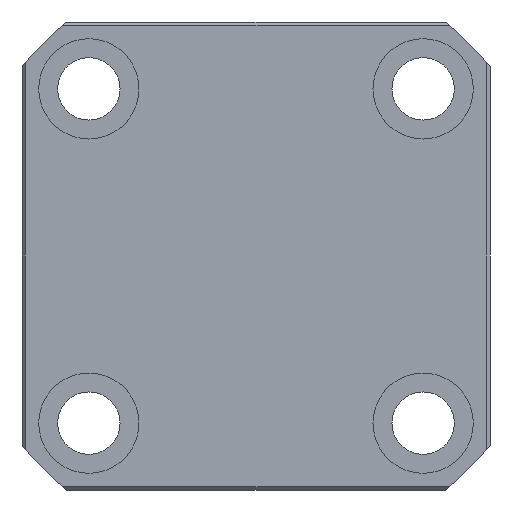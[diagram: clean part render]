
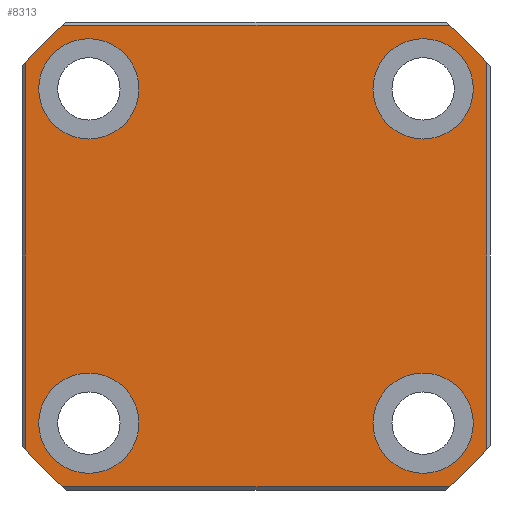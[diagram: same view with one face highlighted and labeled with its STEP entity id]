
A CAD part, front view. The second image highlights one B-rep face of the part: STEP entity #8313.
In plain terms, the highlighted planar face has unit normal (0, -1, 0) as drawn and (0, 0, -1) by its records, which use the part's own axes.
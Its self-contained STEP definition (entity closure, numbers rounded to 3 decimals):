
#75 = CIRCLE ( 'NONE', #1422, 4.5 ) ;
#111 = AXIS2_PLACEMENT_3D ( 'NONE', #5316, #13430, #6490 ) ;
#147 = VECTOR ( 'NONE', #12604, 1000. ) ;
#159 = CARTESIAN_POINT ( 'NONE',  ( -15., 15., 0. ) ) ;
#448 = CARTESIAN_POINT ( 'NONE',  ( 0., 0., 0. ) ) ;
#476 = DIRECTION ( 'NONE',  ( 0., 0., -1. ) ) ;
#484 = ORIENTED_EDGE ( 'NONE', *, *, #1663, .F. ) ;
#670 = VERTEX_POINT ( 'NONE', #2074 ) ;
#795 = CIRCLE ( 'NONE', #13909, 4.5 ) ;
#820 = CIRCLE ( 'NONE', #3505, 4.5 ) ;
#881 = CARTESIAN_POINT ( 'NONE',  ( 15., 15., 0. ) ) ;
#1085 = DIRECTION ( 'NONE',  ( 1., 0., 0. ) ) ;
#1331 = DIRECTION ( 'NONE',  ( -1., 0., 0. ) ) ;
#1335 = EDGE_CURVE ( 'NONE', #6759, #10721, #795, .T. ) ;
#1364 = CARTESIAN_POINT ( 'NONE',  ( 20.7, 17.335, 0. ) ) ;
#1422 = AXIS2_PLACEMENT_3D ( 'NONE', #10215, #3264, #11364 ) ;
#1603 = DIRECTION ( 'NONE',  ( 1., 0., 0. ) ) ;
#1663 = EDGE_CURVE ( 'NONE', #10721, #6759, #10222, .T. ) ;
#1681 = CARTESIAN_POINT ( 'NONE',  ( 0., 0., 0. ) ) ;
#1706 = VECTOR ( 'NONE', #8991, 1000. ) ;
#1856 = CIRCLE ( 'NONE', #9856, 27. ) ;
#1887 = CARTESIAN_POINT ( 'NONE',  ( -20.7, -17.335, 0. ) ) ;
#1970 = AXIS2_PLACEMENT_3D ( 'NONE', #9081, #2133, #10252 ) ;
#2028 = DIRECTION ( 'NONE',  ( -1., 0., 0. ) ) ;
#2067 = ORIENTED_EDGE ( 'NONE', *, *, #7084, .F. ) ;
#2074 = CARTESIAN_POINT ( 'NONE',  ( -10.5, 15., 0. ) ) ;
#2109 = CARTESIAN_POINT ( 'NONE',  ( -10.5, -15., 0. ) ) ;
#2119 = EDGE_CURVE ( 'NONE', #6924, #13919, #5671, .T. ) ;
#2133 = DIRECTION ( 'NONE',  ( 0., 0., -1. ) ) ;
#2181 = CARTESIAN_POINT ( 'NONE',  ( 0., -20.7, 0. ) ) ;
#2248 = CIRCLE ( 'NONE', #12287, 4.5 ) ;
#2347 = AXIS2_PLACEMENT_3D ( 'NONE', #1681, #9795, #2842 ) ;
#2358 = LINE ( 'NONE', #8020, #14340 ) ;
#2485 = VERTEX_POINT ( 'NONE', #13855 ) ;
#2762 = FACE_BOUND ( 'NONE', #4190, .T. ) ;
#2842 = DIRECTION ( 'NONE',  ( 1., 0., 0. ) ) ;
#2921 = VERTEX_POINT ( 'NONE', #1887 ) ;
#3264 = DIRECTION ( 'NONE',  ( 0., 0., -1. ) ) ;
#3470 = VERTEX_POINT ( 'NONE', #4208 ) ;
#3505 = AXIS2_PLACEMENT_3D ( 'NONE', #159, #8267, #1331 ) ;
#3519 = EDGE_CURVE ( 'NONE', #3470, #3550, #6172, .T. ) ;
#3550 = VERTEX_POINT ( 'NONE', #11309 ) ;
#3648 = VERTEX_POINT ( 'NONE', #14944 ) ;
#3667 = EDGE_CURVE ( 'NONE', #3648, #13919, #2358, .T. ) ;
#3795 = ORIENTED_EDGE ( 'NONE', *, *, #6285, .F. ) ;
#3937 = AXIS2_PLACEMENT_3D ( 'NONE', #12381, #7738, #14740 ) ;
#4190 = EDGE_LOOP ( 'NONE', ( #12544, #11627 ) ) ;
#4208 = CARTESIAN_POINT ( 'NONE',  ( 19.5, 15., 0. ) ) ;
#4382 = VERTEX_POINT ( 'NONE', #9340 ) ;
#4419 = CARTESIAN_POINT ( 'NONE',  ( -15., 15., 0. ) ) ;
#4538 = ORIENTED_EDGE ( 'NONE', *, *, #11081, .F. ) ;
#4790 = CARTESIAN_POINT ( 'NONE',  ( 17.335, -20.7, 0. ) ) ;
#4803 = AXIS2_PLACEMENT_3D ( 'NONE', #4419, #12528, #5583 ) ;
#4890 = EDGE_LOOP ( 'NONE', ( #12199, #10483, #10539, #11296, #2067, #5570, #4538, #12720 ) ) ;
#4995 = CARTESIAN_POINT ( 'NONE',  ( 0., 0., 0. ) ) ;
#5125 = CIRCLE ( 'NONE', #4803, 4.5 ) ;
#5233 = AXIS2_PLACEMENT_3D ( 'NONE', #448, #8557, #1603 ) ;
#5316 = CARTESIAN_POINT ( 'NONE',  ( -15., -15., 0. ) ) ;
#5479 = CARTESIAN_POINT ( 'NONE',  ( 19.5, -15., 0. ) ) ;
#5559 = DIRECTION ( 'NONE',  ( 0., 0., 1. ) ) ;
#5570 = ORIENTED_EDGE ( 'NONE', *, *, #6514, .T. ) ;
#5583 = DIRECTION ( 'NONE',  ( -1., 0., 0. ) ) ;
#5642 = EDGE_LOOP ( 'NONE', ( #6577, #3795 ) ) ;
#5671 = CIRCLE ( 'NONE', #2347, 27. ) ;
#5688 = DIRECTION ( 'NONE',  ( -1., 0., 0. ) ) ;
#5802 = EDGE_LOOP ( 'NONE', ( #12598, #5873 ) ) ;
#5859 = FACE_BOUND ( 'NONE', #5802, .T. ) ;
#5873 = ORIENTED_EDGE ( 'NONE', *, *, #3519, .F. ) ;
#5965 = CARTESIAN_POINT ( 'NONE',  ( 15., 15., 0. ) ) ;
#6172 = CIRCLE ( 'NONE', #7988, 4.5 ) ;
#6184 = DIRECTION ( 'NONE',  ( 1., 0., 0. ) ) ;
#6226 = FACE_BOUND ( 'NONE', #5642, .T. ) ;
#6285 = EDGE_CURVE ( 'NONE', #670, #12539, #820, .T. ) ;
#6490 = DIRECTION ( 'NONE',  ( -1., 0., 0. ) ) ;
#6505 = VERTEX_POINT ( 'NONE', #5479 ) ;
#6514 = EDGE_CURVE ( 'NONE', #2921, #2485, #10948, .T. ) ;
#6567 = EDGE_LOOP ( 'NONE', ( #484, #11434 ) ) ;
#6577 = ORIENTED_EDGE ( 'NONE', *, *, #7358, .F. ) ;
#6624 = PLANE ( 'NONE',  #3937 ) ;
#6759 = VERTEX_POINT ( 'NONE', #2109 ) ;
#6924 = VERTEX_POINT ( 'NONE', #1364 ) ;
#7081 = AXIS2_PLACEMENT_3D ( 'NONE', #4995, #13131, #6184 ) ;
#7084 = EDGE_CURVE ( 'NONE', #2921, #14426, #13867, .T. ) ;
#7143 = DIRECTION ( 'NONE',  ( -1., 0., 0. ) ) ;
#7351 = VECTOR ( 'NONE', #5688, 1000. ) ;
#7358 = EDGE_CURVE ( 'NONE', #12539, #670, #5125, .T. ) ;
#7424 = CARTESIAN_POINT ( 'NONE',  ( 17.335, 20.7, 0. ) ) ;
#7427 = CARTESIAN_POINT ( 'NONE',  ( -15., -15., 0. ) ) ;
#7738 = DIRECTION ( 'NONE',  ( 0., 0., 1. ) ) ;
#7802 = EDGE_CURVE ( 'NONE', #3550, #3470, #2248, .T. ) ;
#7804 = VERTEX_POINT ( 'NONE', #4790 ) ;
#7988 = AXIS2_PLACEMENT_3D ( 'NONE', #881, #8990, #2028 ) ;
#8020 = CARTESIAN_POINT ( 'NONE',  ( 0., 20.7, 0. ) ) ;
#8190 = VERTEX_POINT ( 'NONE', #12272 ) ;
#8267 = DIRECTION ( 'NONE',  ( 0., 0., -1. ) ) ;
#8313 = ADVANCED_FACE ( 'NONE', ( #12387, #2762, #5859, #6226, #11650 ), #6624, .F. ) ;
#8557 = DIRECTION ( 'NONE',  ( 0., 0., 1. ) ) ;
#8595 = DIRECTION ( 'NONE',  ( -1., 0., 0. ) ) ;
#8990 = DIRECTION ( 'NONE',  ( 0., 0., -1. ) ) ;
#8991 = DIRECTION ( 'NONE',  ( 0., 1., 0. ) ) ;
#9081 = CARTESIAN_POINT ( 'NONE',  ( 15., -15., 0. ) ) ;
#9223 = EDGE_CURVE ( 'NONE', #7804, #14426, #10439, .T. ) ;
#9340 = CARTESIAN_POINT ( 'NONE',  ( 10.5, -15., 0. ) ) ;
#9795 = DIRECTION ( 'NONE',  ( 0., 0., 1. ) ) ;
#9856 = AXIS2_PLACEMENT_3D ( 'NONE', #12500, #5559, #13683 ) ;
#10215 = CARTESIAN_POINT ( 'NONE',  ( 15., -15., 0. ) ) ;
#10222 = CIRCLE ( 'NONE', #111, 4.5 ) ;
#10252 = DIRECTION ( 'NONE',  ( -1., 0., 0. ) ) ;
#10365 = EDGE_CURVE ( 'NONE', #6505, #4382, #75, .T. ) ;
#10439 = LINE ( 'NONE', #2181, #7351 ) ;
#10483 = ORIENTED_EDGE ( 'NONE', *, *, #15062, .T. ) ;
#10489 = CARTESIAN_POINT ( 'NONE',  ( -17.335, -20.7, 0. ) ) ;
#10539 = ORIENTED_EDGE ( 'NONE', *, *, #12107, .F. ) ;
#10684 = CARTESIAN_POINT ( 'NONE',  ( -19.5, 15., 0. ) ) ;
#10721 = VERTEX_POINT ( 'NONE', #11046 ) ;
#10948 = LINE ( 'NONE', #14796, #1706 ) ;
#11046 = CARTESIAN_POINT ( 'NONE',  ( -19.5, -15., 0. ) ) ;
#11081 = EDGE_CURVE ( 'NONE', #3648, #2485, #13494, .T. ) ;
#11296 = ORIENTED_EDGE ( 'NONE', *, *, #9223, .T. ) ;
#11309 = CARTESIAN_POINT ( 'NONE',  ( 10.5, 15., 0. ) ) ;
#11364 = DIRECTION ( 'NONE',  ( -1., 0., 0. ) ) ;
#11434 = ORIENTED_EDGE ( 'NONE', *, *, #1335, .F. ) ;
#11627 = ORIENTED_EDGE ( 'NONE', *, *, #10365, .F. ) ;
#11650 = FACE_OUTER_BOUND ( 'NONE', #4890, .T. ) ;
#12107 = EDGE_CURVE ( 'NONE', #7804, #8190, #1856, .T. ) ;
#12133 = CIRCLE ( 'NONE', #1970, 4.5 ) ;
#12199 = ORIENTED_EDGE ( 'NONE', *, *, #2119, .F. ) ;
#12272 = CARTESIAN_POINT ( 'NONE',  ( 20.7, -17.335, 0. ) ) ;
#12287 = AXIS2_PLACEMENT_3D ( 'NONE', #5965, #14086, #7143 ) ;
#12381 = CARTESIAN_POINT ( 'NONE',  ( 0., 0., 0. ) ) ;
#12387 = FACE_BOUND ( 'NONE', #6567, .T. ) ;
#12500 = CARTESIAN_POINT ( 'NONE',  ( 0., 0., 0. ) ) ;
#12528 = DIRECTION ( 'NONE',  ( 0., 0., -1. ) ) ;
#12539 = VERTEX_POINT ( 'NONE', #10684 ) ;
#12544 = ORIENTED_EDGE ( 'NONE', *, *, #13024, .F. ) ;
#12598 = ORIENTED_EDGE ( 'NONE', *, *, #7802, .F. ) ;
#12604 = DIRECTION ( 'NONE',  ( 0., -1., 0. ) ) ;
#12720 = ORIENTED_EDGE ( 'NONE', *, *, #3667, .T. ) ;
#13024 = EDGE_CURVE ( 'NONE', #4382, #6505, #12133, .T. ) ;
#13131 = DIRECTION ( 'NONE',  ( 0., 0., 1. ) ) ;
#13430 = DIRECTION ( 'NONE',  ( 0., 0., -1. ) ) ;
#13494 = CIRCLE ( 'NONE', #7081, 27. ) ;
#13683 = DIRECTION ( 'NONE',  ( 1., 0., 0. ) ) ;
#13768 = CARTESIAN_POINT ( 'NONE',  ( 20.7, 0., 0. ) ) ;
#13855 = CARTESIAN_POINT ( 'NONE',  ( -20.7, 17.335, 0. ) ) ;
#13867 = CIRCLE ( 'NONE', #5233, 27. ) ;
#13909 = AXIS2_PLACEMENT_3D ( 'NONE', #7427, #476, #8595 ) ;
#13919 = VERTEX_POINT ( 'NONE', #7424 ) ;
#14086 = DIRECTION ( 'NONE',  ( 0., 0., -1. ) ) ;
#14340 = VECTOR ( 'NONE', #1085, 1000. ) ;
#14426 = VERTEX_POINT ( 'NONE', #10489 ) ;
#14740 = DIRECTION ( 'NONE',  ( 1., 0., 0. ) ) ;
#14796 = CARTESIAN_POINT ( 'NONE',  ( -20.7, 0., 0. ) ) ;
#14872 = LINE ( 'NONE', #13768, #147 ) ;
#14944 = CARTESIAN_POINT ( 'NONE',  ( -17.335, 20.7, 0. ) ) ;
#15062 = EDGE_CURVE ( 'NONE', #6924, #8190, #14872, .T. ) ;
